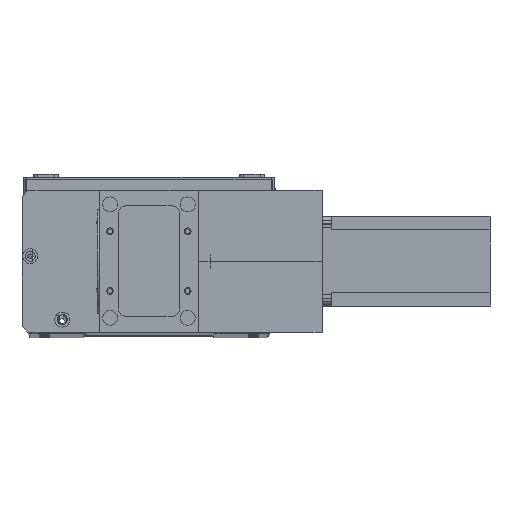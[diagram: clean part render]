
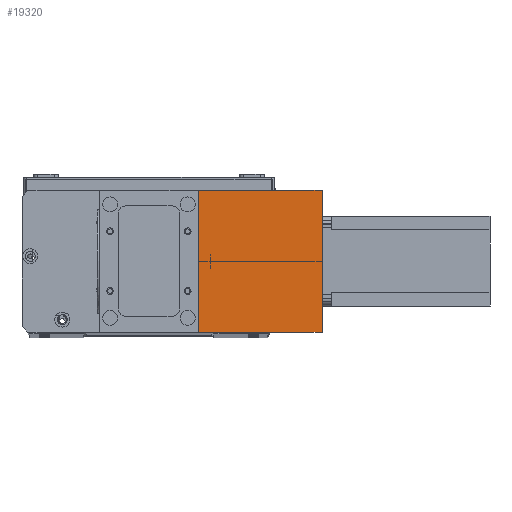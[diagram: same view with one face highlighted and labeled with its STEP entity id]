
A CAD part, top view. The second image highlights one B-rep face of the part: STEP entity #19320.
In plain terms, the highlighted planar face has unit normal (0, 0, 1) as drawn and (1, 0, 0) by its records, which use the part's own axes.
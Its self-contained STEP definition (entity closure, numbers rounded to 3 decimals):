
#1458 = VERTEX_POINT ( 'NONE', #9265 ) ;
#3495 = VERTEX_POINT ( 'NONE', #4930 ) ;
#3668 = LINE ( 'NONE', #7165, #4390 ) ;
#4390 = VECTOR ( 'NONE', #7188, 1000. ) ;
#4930 = CARTESIAN_POINT ( 'NONE',  ( 82., 0., 83. ) ) ;
#5321 = DIRECTION ( 'NONE',  ( 0., 0., -1. ) ) ;
#6040 = ORIENTED_EDGE ( 'NONE', *, *, #11078, .F. ) ;
#7165 = CARTESIAN_POINT ( 'NONE',  ( 82., 0., 0. ) ) ;
#7188 = DIRECTION ( 'NONE',  ( 0., 1., 0. ) ) ;
#9025 = DIRECTION ( 'NONE',  ( 0., 0., 1. ) ) ;
#9265 = CARTESIAN_POINT ( 'NONE',  ( 82., 0., 0. ) ) ;
#9474 = DIRECTION ( 'NONE',  ( 0., 1., 0. ) ) ;
#10597 = EDGE_CURVE ( 'NONE', #1458, #17472, #3668, .T. ) ;
#11012 = CARTESIAN_POINT ( 'NONE',  ( 82., 95., 83. ) ) ;
#11078 = EDGE_CURVE ( 'NONE', #27660, #17472, #14915, .T. ) ;
#11743 = CARTESIAN_POINT ( 'NONE',  ( 82., 95., 0. ) ) ;
#12972 = EDGE_CURVE ( 'NONE', #3495, #1458, #25936, .T. ) ;
#14915 = LINE ( 'NONE', #22299, #26656 ) ;
#15636 = DIRECTION ( 'NONE',  ( -1., 0., 0. ) ) ;
#16022 = EDGE_LOOP ( 'NONE', ( #25618, #6040, #26062, #25908 ) ) ;
#16916 = LINE ( 'NONE', #27127, #27220 ) ;
#17472 = VERTEX_POINT ( 'NONE', #11743 ) ;
#19320 = ADVANCED_FACE ( 'NONE', ( #22934 ), #22322, .F. ) ;
#19348 = VECTOR ( 'NONE', #20129, 1000. ) ;
#20071 = CARTESIAN_POINT ( 'NONE',  ( 82., 0., 83. ) ) ;
#20129 = DIRECTION ( 'NONE',  ( 0., 0., -1. ) ) ;
#20895 = CARTESIAN_POINT ( 'NONE',  ( 82., 0., 83. ) ) ;
#22299 = CARTESIAN_POINT ( 'NONE',  ( 82., 95., 83. ) ) ;
#22322 = PLANE ( 'NONE',  #26415 ) ;
#22934 = FACE_OUTER_BOUND ( 'NONE', #16022, .T. ) ;
#25618 = ORIENTED_EDGE ( 'NONE', *, *, #10597, .T. ) ;
#25908 = ORIENTED_EDGE ( 'NONE', *, *, #12972, .T. ) ;
#25936 = LINE ( 'NONE', #20895, #19348 ) ;
#26062 = ORIENTED_EDGE ( 'NONE', *, *, #28996, .F. ) ;
#26415 = AXIS2_PLACEMENT_3D ( 'NONE', #20071, #15636, #9025 ) ;
#26656 = VECTOR ( 'NONE', #5321, 1000. ) ;
#27127 = CARTESIAN_POINT ( 'NONE',  ( 82., 0., 83. ) ) ;
#27220 = VECTOR ( 'NONE', #9474, 1000. ) ;
#27660 = VERTEX_POINT ( 'NONE', #11012 ) ;
#28996 = EDGE_CURVE ( 'NONE', #3495, #27660, #16916, .T. ) ;
